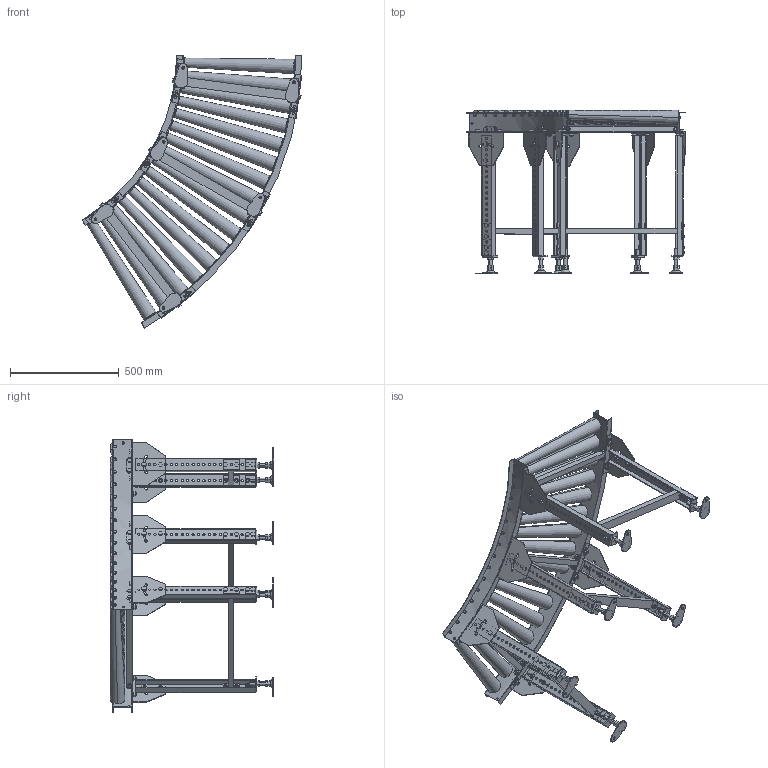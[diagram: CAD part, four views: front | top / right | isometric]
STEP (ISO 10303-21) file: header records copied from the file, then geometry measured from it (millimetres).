
FILE_DESCRIPTION (( 'STEP AP214' ), '1' );
FILE_NAME ('MRT-C9-500-75-60.STEP', '2022-09-28T01:38:37', ( '' ), ( '' ), 'SwSTEP 2.0', 'SolidWorks 2017', '' );
FILE_SCHEMA (( 'AUTOMOTIVE_DESIGN' ));
Length unit declared in the file: millimetre
Products named in the file (1): MRT-C9-500-75-60
Bounding box: 1010 x 750 x 1251.41 mm (x, y, z)
Volume: 25340940 mm3; surface area: 3835139.3 mm2
Topology: 28 solids, 58 shells, 3218 faces, 7716 edges, 4856 vertices
Faces by surface type: plane 2298, cylinder 876, cone 44
Entity records: 135444 total; most frequent: CARTESIAN_POINT 22766, DIRECTION 16450, ORIENTED_EDGE 15432, EDGE_CURVE 7716, AXIS2_PLACEMENT_3D 5737, LINE 4976, VECTOR 4976, VERTEX_POINT 4856
